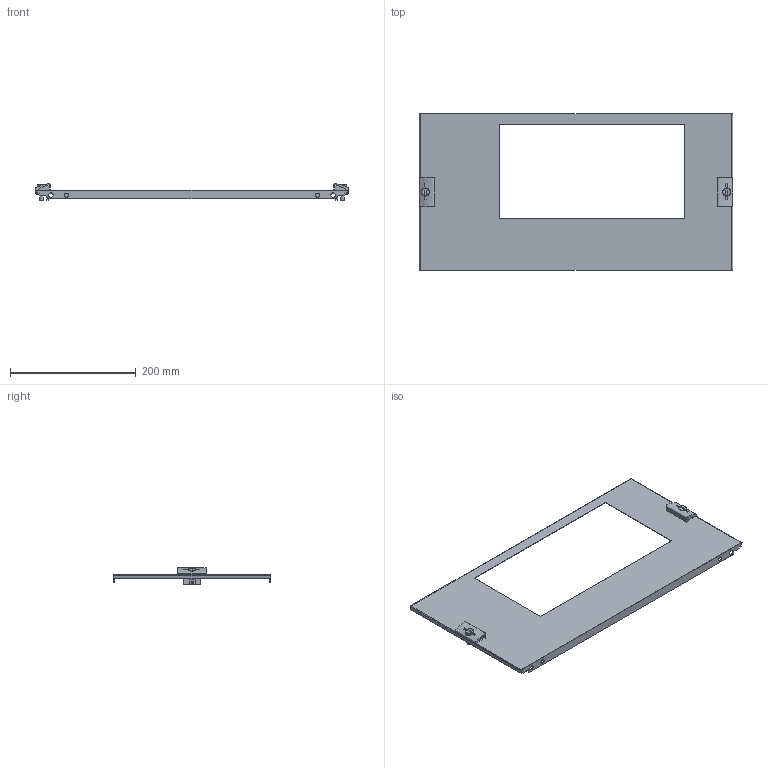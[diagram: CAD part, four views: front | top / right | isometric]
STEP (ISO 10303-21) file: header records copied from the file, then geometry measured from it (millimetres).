
FILE_DESCRIPTION((''),'2;1');
FILE_NAME('SB106173_3D_COLOUR','2013-07-26T',('SESA214371'),('Schneider-Electric'),'PRO/ENGINEER BY PARAMETRIC TECHNOLOGY CORPORATION, 2011410','PRO/ENGINEER BY PARAMETRIC TECHNOLOGY CORPORATION, 2011410','');
FILE_SCHEMA(('CONFIG_CONTROL_DESIGN'));
Length unit declared in the file: millimetre
Products named in the file (1): SB106173_3D_COLOUR
Bounding box: 498.69 x 249 x 25.81 mm (x, y, z)
Volume: 96096.9 mm3; surface area: 215401 mm2
Topology: 1 solids, 1 shells, 273 faces, 747 edges, 487 vertices
Faces by surface type: plane 217, cylinder 48, extrusion 8
Entity records: 9084 total; most frequent: CARTESIAN_POINT 2074, ORIENTED_EDGE 1494, DIRECTION 1339, EDGE_CURVE 747, VECTOR 613, LINE 605, VERTEX_POINT 487, AXIS2_PLACEMENT_3D 363
